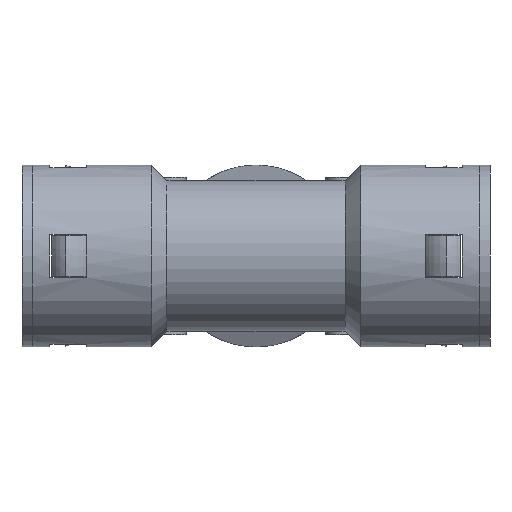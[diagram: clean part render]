
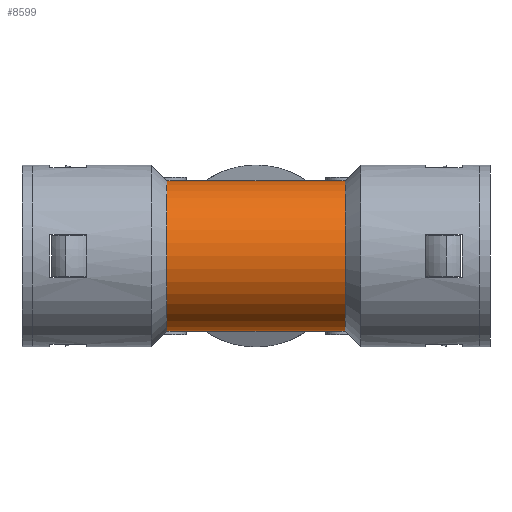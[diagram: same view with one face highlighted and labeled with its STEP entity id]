
A CAD part, front view. The second image highlights one B-rep face of the part: STEP entity #8599.
In plain terms, the highlighted cylindrical face has radius 21.5 mm (diameter 43 mm), a partial arc.
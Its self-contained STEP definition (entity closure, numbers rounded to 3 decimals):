
#985 = AXIS2_PLACEMENT_3D ( 'NONE', #5819, #5818, #5814 ) ;
#1212 = LINE ( 'NONE', #2868, #1218 ) ;
#1216 = VECTOR ( 'NONE', #2870, 1000. ) ;
#1217 = LINE ( 'NONE', #2871, #1216 ) ;
#1218 = VECTOR ( 'NONE', #2854, 1000. ) ;
#1220 = VECTOR ( 'NONE', #2891, 1000. ) ;
#1227 = LINE ( 'NONE', #2917, #1220 ) ;
#1257 = LINE ( 'NONE', #3553, #1297 ) ;
#1293 = CIRCLE ( 'NONE', #8544, 21.5 ) ;
#1294 = CIRCLE ( 'NONE', #8548, 21.5 ) ;
#1297 = VECTOR ( 'NONE', #3536, 1000. ) ;
#1303 = VECTOR ( 'NONE', #3190, 1000. ) ;
#2214 = ORIENTED_EDGE ( 'NONE', *, *, #6119, .F. ) ;
#2215 = ORIENTED_EDGE ( 'NONE', *, *, #6036, .T. ) ;
#2216 = ORIENTED_EDGE ( 'NONE', *, *, #6103, .T. ) ;
#2217 = ORIENTED_EDGE ( 'NONE', *, *, #6100, .T. ) ;
#2218 = ORIENTED_EDGE ( 'NONE', *, *, #6242, .T. ) ;
#2219 = ORIENTED_EDGE ( 'NONE', *, *, #6037, .F. ) ;
#2220 = ORIENTED_EDGE ( 'NONE', *, *, #6066, .F. ) ;
#2221 = ORIENTED_EDGE ( 'NONE', *, *, #6097, .T. ) ;
#2572 = DIRECTION ( 'NONE',  ( -1., 0., 0. ) ) ;
#2576 = CARTESIAN_POINT ( 'NONE',  ( -56.5, 0., -21.5 ) ) ;
#2639 = CARTESIAN_POINT ( 'NONE',  ( 25.5, 0., 21.5 ) ) ;
#2693 = CARTESIAN_POINT ( 'NONE',  ( -14.62, 0., 21.5 ) ) ;
#2762 = CARTESIAN_POINT ( 'NONE',  ( -56.5, 0., 21.5 ) ) ;
#2854 = DIRECTION ( 'NONE',  ( -1., 0., 0. ) ) ;
#2868 = CARTESIAN_POINT ( 'NONE',  ( -56.5, 0., 21.5 ) ) ;
#2870 = DIRECTION ( 'NONE',  ( -1., 0., 0. ) ) ;
#2871 = CARTESIAN_POINT ( 'NONE',  ( -56.5, 0., 21.5 ) ) ;
#2891 = DIRECTION ( 'NONE',  ( 1., 0., 0. ) ) ;
#2917 = CARTESIAN_POINT ( 'NONE',  ( -56.5, 0., -21.5 ) ) ;
#3190 = DIRECTION ( 'NONE',  ( -1., 0., 0. ) ) ;
#3300 = CARTESIAN_POINT ( 'NONE',  ( 14.62, 0., -21.5 ) ) ;
#3334 = CARTESIAN_POINT ( 'NONE',  ( 25.5, 0., -21.5 ) ) ;
#3358 = CARTESIAN_POINT ( 'NONE',  ( -14.62, 0., -21.5 ) ) ;
#3432 = DIRECTION ( 'NONE',  ( 0., 0., 1. ) ) ;
#3439 = DIRECTION ( 'NONE',  ( -1., 0., 0. ) ) ;
#3450 = CARTESIAN_POINT ( 'NONE',  ( -25.5, 0., 0. ) ) ;
#3457 = DIRECTION ( 'NONE',  ( 0., 0., 1. ) ) ;
#3474 = DIRECTION ( 'NONE',  ( -1., 0., 0. ) ) ;
#3508 = CARTESIAN_POINT ( 'NONE',  ( 25.5, 0., 0. ) ) ;
#3536 = DIRECTION ( 'NONE',  ( -1., 0., 0. ) ) ;
#3553 = CARTESIAN_POINT ( 'NONE',  ( -56.5, 0., -21.5 ) ) ;
#3831 = CARTESIAN_POINT ( 'NONE',  ( 14.62, 0., 21.5 ) ) ;
#3864 = CARTESIAN_POINT ( 'NONE',  ( -25.5, 0., -21.5 ) ) ;
#3869 = CARTESIAN_POINT ( 'NONE',  ( -25.5, 0., 21.5 ) ) ;
#4316 = LINE ( 'NONE', #2762, #1303 ) ;
#4369 = VECTOR ( 'NONE', #2572, 1000. ) ;
#4376 = LINE ( 'NONE', #2576, #4369 ) ;
#4512 = EDGE_LOOP ( 'NONE', ( #2214, #2215, #2216, #2217, #2218, #2219, #2220, #2221 ) ) ;
#5814 = DIRECTION ( 'NONE',  ( 0., 0., 1. ) ) ;
#5818 = DIRECTION ( 'NONE',  ( -1., 0., 0. ) ) ;
#5819 = CARTESIAN_POINT ( 'NONE',  ( -56.5, 0., 0. ) ) ;
#6036 = EDGE_CURVE ( 'NONE', #6586, #6585, #1294, .T. ) ;
#6037 = EDGE_CURVE ( 'NONE', #6582, #6607, #1293, .T. ) ;
#6066 = EDGE_CURVE ( 'NONE', #6596, #6582, #1257, .T. ) ;
#6097 = EDGE_CURVE ( 'NONE', #6596, #6579, #1227, .T. ) ;
#6100 = EDGE_CURVE ( 'NONE', #6590, #6604, #1217, .T. ) ;
#6103 = EDGE_CURVE ( 'NONE', #6585, #6590, #1212, .T. ) ;
#6119 = EDGE_CURVE ( 'NONE', #6586, #6579, #4376, .T. ) ;
#6242 = EDGE_CURVE ( 'NONE', #6604, #6607, #4316, .T. ) ;
#6579 = VERTEX_POINT ( 'NONE', #3300 ) ;
#6582 = VERTEX_POINT ( 'NONE', #3864 ) ;
#6585 = VERTEX_POINT ( 'NONE', #2639 ) ;
#6586 = VERTEX_POINT ( 'NONE', #3334 ) ;
#6590 = VERTEX_POINT ( 'NONE', #3831 ) ;
#6596 = VERTEX_POINT ( 'NONE', #3358 ) ;
#6604 = VERTEX_POINT ( 'NONE', #2693 ) ;
#6607 = VERTEX_POINT ( 'NONE', #3869 ) ;
#7184 = FACE_OUTER_BOUND ( 'NONE', #4512, .T. ) ;
#7193 = CYLINDRICAL_SURFACE ( 'NONE', #985, 21.5 ) ;
#8544 = AXIS2_PLACEMENT_3D ( 'NONE', #3450, #3439, #3432 ) ;
#8548 = AXIS2_PLACEMENT_3D ( 'NONE', #3508, #3474, #3457 ) ;
#8599 = ADVANCED_FACE ( 'NONE', ( #7184 ), #7193, .T. ) ;
